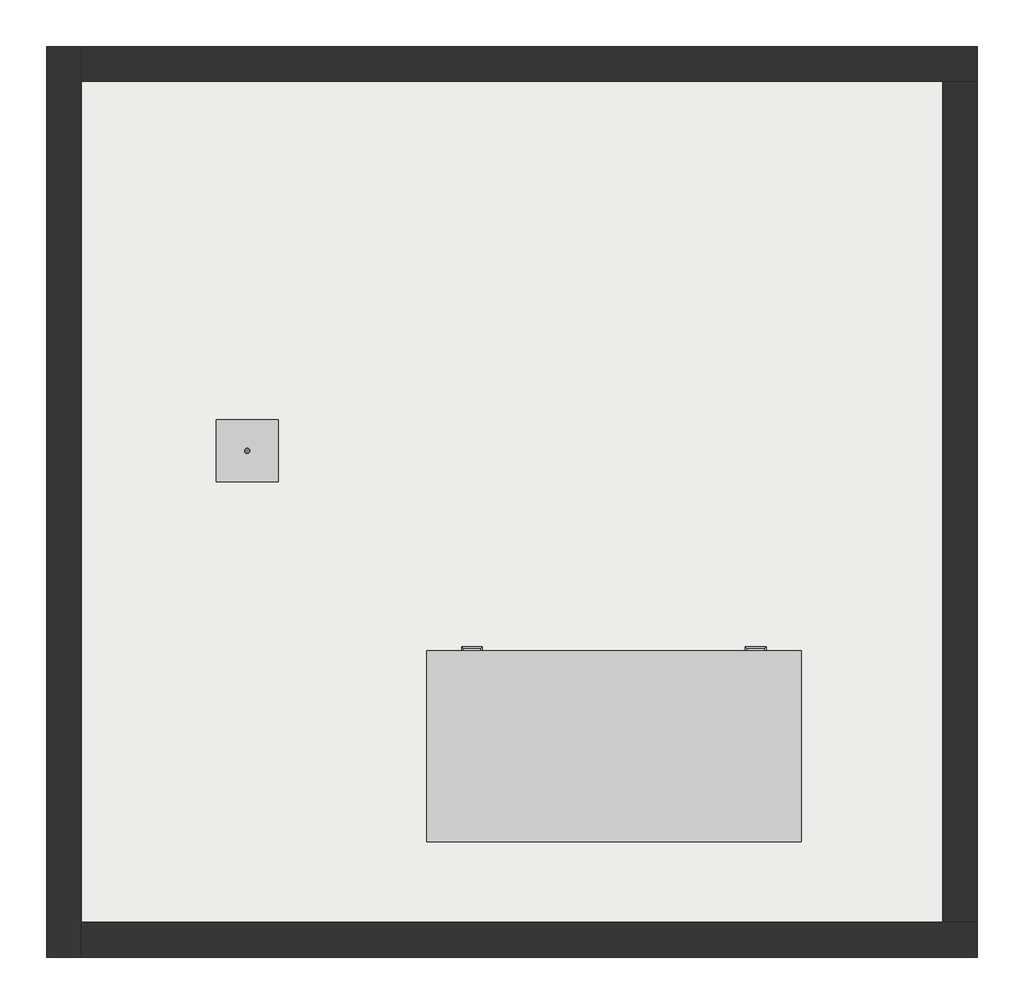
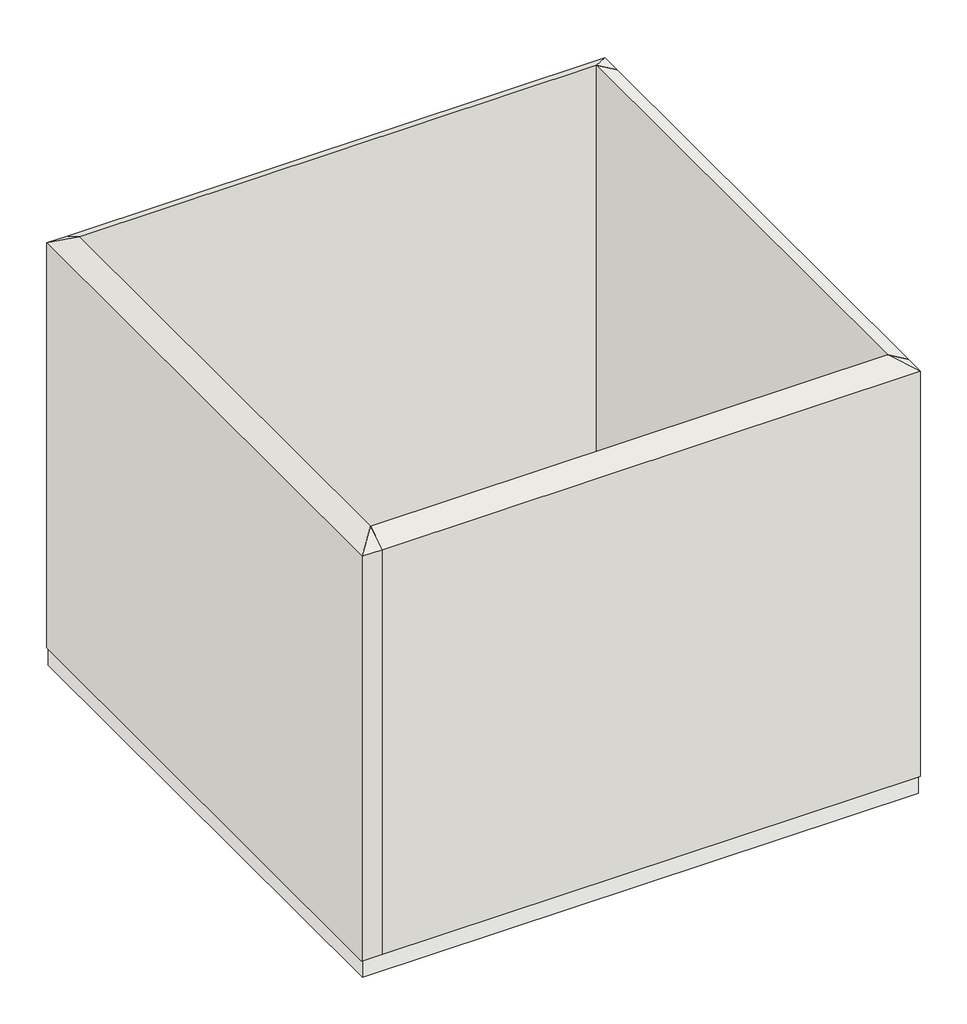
# One storey: 4 walls, 1 furniture element, 1 light fixture, 1 slab.
"""IFC4 building model written with IfcOpenShell, lengths in millimetres."""

import ifcopenshell
import ifcopenshell.guid

model = None  # the IFC model being written
_history = None  # IfcOwnerHistory: only IFC2X3 demands one
_inside = {}  # id of a spatial element -> (the spatial element, [elements in it])
_under = {}  # id of a project, library or spatial element -> (it, [spatial elements below it])
_declared = {}  # id of a project -> (the project, [libraries it declares])
_typed = {}  # id of a type object -> (the type object, [elements of that type])
_made_of = {}  # id of a material, layer set ... -> (it, [elements and type objects made of it])


def new_model(schema):
    """Start an empty IFC model of exactly this schema.

    Asked for "IFC4X3", IfcOpenShell would pick the latest addendum, in which some entities
    have other attributes; the version numbers below select the first issue.
    IFC2X3 requires an IfcOwnerHistory on every rooted entity: one is made here for all.
    """
    global model, _history
    if schema == "IFC4X3":
        model = ifcopenshell.file(schema_version=(4, 3, 0, 0))
    else:
        model = ifcopenshell.file(schema=schema)
    _inside.clear()
    _under.clear()
    _declared.clear()
    _typed.clear()
    _made_of.clear()
    _history = None
    if model.schema == "IFC2X3":
        org = make("IfcOrganization", Name="unknown")
        user = make(
            "IfcPersonAndOrganization",
            ThePerson=make("IfcPerson", FamilyName="unknown"),
            TheOrganization=org,
        )
        app = make(
            "IfcApplication",
            ApplicationDeveloper=org,
            Version="unknown",
            ApplicationFullName="unknown",
            ApplicationIdentifier="unknown",
        )
        _history = make(
            "IfcOwnerHistory",
            OwningUser=user,
            OwningApplication=app,
            ChangeAction="ADDED",
            CreationDate=0,
        )
    return model


def make(cls, **values):
    """One entity of the class cls with the attributes given. An attribute that is None is left unset."""
    return model.create_entity(
        cls, **{name: value for name, value in values.items() if value is not None}
    )


def rooted(cls, **values):
    """An entity with a GlobalId (a new one), such as an element, a storey or a relation."""
    return make(cls, GlobalId=ifcopenshell.guid.new(), OwnerHistory=_history, **values)


def si_unit(unit_type, name, prefix=None):
    """IfcSIUnit, for example si_unit("LENGTHUNIT", "METRE", prefix="MILLI")."""
    return make("IfcSIUnit", UnitType=unit_type, Prefix=prefix, Name=name)


def assignment(units):
    """IfcUnitAssignment: the units of a project."""
    return None if units is None else make("IfcUnitAssignment", Units=units)


def point(xyz):
    """IfcCartesianPoint."""
    return None if xyz is None else make("IfcCartesianPoint", Coordinates=xyz)


def direction(xyz):
    """IfcDirection."""
    return None if xyz is None else make("IfcDirection", DirectionRatios=xyz)


def frame(location, z_axis=None, x_axis=None):
    """IfcAxis2Placement3D, a coordinate frame: its origin and axes. An axis left out is left unset."""
    return make(
        "IfcAxis2Placement3D",
        Location=point(location),
        Axis=direction(z_axis),
        RefDirection=direction(x_axis),
    )


def frame_2d(location, x_axis=None):
    """IfcAxis2Placement2D, a coordinate frame in the plane: its origin and x axis."""
    return make(
        "IfcAxis2Placement2D", Location=point(location), RefDirection=direction(x_axis)
    )


def origin():
    """The frame at (0, 0, 0) with its axes left unset."""
    return frame((0.0, 0.0, 0.0))


def origin_2d():
    """The frame at (0, 0) in the plane with its x axis left unset."""
    return frame_2d((0.0, 0.0))


def place(relative_to, where):
    """IfcLocalPlacement: puts the frame where relative to a parent placement (None: the world)."""
    return make(
        "IfcLocalPlacement", PlacementRelTo=relative_to, RelativePlacement=where
    )


def context(
    kind, dimensions, precision=None, world=None, true_north=None, identifier=None
):
    """IfcGeometricRepresentationContext, for example the 3D "Model" context."""
    return make(
        "IfcGeometricRepresentationContext",
        ContextIdentifier=identifier,
        ContextType=kind,
        CoordinateSpaceDimension=dimensions,
        Precision=precision,
        WorldCoordinateSystem=world,
        TrueNorth=true_north,
    )


def project(units=None, contexts=None):
    """IfcProject with its units and contexts."""
    return rooted(
        "IfcProject",
        Name="project",
        RepresentationContexts=contexts,
        UnitsInContext=assignment(units),
    )


def spatial(cls, under=None, at=None, **own):
    """A site, building, storey or space (cls), placed at a placement, below another one or the project."""
    s = rooted(cls, ObjectPlacement=at, **own)
    if under is not None:
        _under.setdefault(under.id(), (under, []))[1].append(s)
    return s


def polyline(points):
    """IfcPolyline through the points."""
    return make("IfcPolyline", Points=[point(p) for p in points])


def circle_curve(where, radius):
    """IfcCircle in the frame where."""
    return make("IfcCircle", Position=where, Radius=radius)


def ellipse_curve(where, semi_axis1, semi_axis2):
    """IfcEllipse in the frame where."""
    return make(
        "IfcEllipse", Position=where, SemiAxis1=semi_axis1, SemiAxis2=semi_axis2
    )


def trimmed(basis, trim1, trim2, sense, master):
    """IfcTrimmedCurve: the piece of a basis curve between two trims."""
    return make(
        "IfcTrimmedCurve",
        BasisCurve=basis,
        Trim1=trim1,
        Trim2=trim2,
        SenseAgreement=sense,
        MasterRepresentation=master,
    )


def segment(curve, same_sense, transition):
    """IfcCompositeCurveSegment."""
    return make(
        "IfcCompositeCurveSegment",
        Transition=transition,
        SameSense=same_sense,
        ParentCurve=curve,
    )


def composite_curve(segments, self_intersect=None):
    """IfcCompositeCurve: segments joined end to end."""
    return make("IfcCompositeCurve", Segments=segments, SelfIntersect=self_intersect)


def outline(outer, holes=None, kind="AREA"):
    """IfcArbitraryClosedProfileDef: a profile drawn as a closed curve; with holes, ...WithVoids."""
    if holes is None:
        return make("IfcArbitraryClosedProfileDef", ProfileType=kind, OuterCurve=outer)
    return make(
        "IfcArbitraryProfileDefWithVoids",
        ProfileType=kind,
        OuterCurve=outer,
        InnerCurves=holes,
    )


def extrude(swept, where, along, depth):
    """IfcExtrudedAreaSolid: the profile swept, set in the frame where, extruded along a direction by depth."""
    return make(
        "IfcExtrudedAreaSolid",
        SweptArea=swept,
        Position=where,
        ExtrudedDirection=direction(along),
        Depth=depth,
    )


def faces_of(points, faces, orient=None, outer=None):
    """IfcFace entities. A face is a list of loops; a loop is a list of indices into points, from 0.

    orient and outer hold one flag for each loop. By default every Orientation is true, the
    first loop of a face is its IfcFaceOuterBound and the others are IfcFaceBound.
    """
    made = []
    for i, loops in enumerate(faces):
        bounds = []
        for j, loop in enumerate(loops):
            is_outer = j == 0 if outer is None else outer[i][j]
            bounds.append(
                make(
                    "IfcFaceOuterBound" if is_outer else "IfcFaceBound",
                    Bound=make("IfcPolyLoop", Polygon=[points[k] for k in loop]),
                    Orientation=True if orient is None else orient[i][j],
                )
            )
        made.append(make("IfcFace", Bounds=bounds))
    return made


def faceted_brep(points, faces, orient=None, outer=None, voids=None):
    """IfcFacetedBrep: a solid bounded by flat faces; with voids (closed shells), ...WithVoids."""
    shared = [point(p) for p in points]
    hull = make("IfcClosedShell", CfsFaces=faces_of(shared, faces, orient, outer))
    if voids is None:
        return make("IfcFacetedBrep", Outer=hull)
    return make(
        "IfcFacetedBrepWithVoids",
        Outer=hull,
        Voids=[
            make(cls, CfsFaces=faces_of(shared, fs, o, b)) for cls, fs, o, b in voids
        ],
    )


def shape(context_of_items, identifier, shape_type, items):
    """IfcShapeRepresentation: the items that make up one representation, for example the "Body"."""
    return make(
        "IfcShapeRepresentation",
        ContextOfItems=context_of_items,
        RepresentationIdentifier=identifier,
        RepresentationType=shape_type,
        Items=items,
    )


def source(mapping_origin, context_of_items, identifier, shape_type, items):
    """IfcRepresentationMap: a shape defined once, which mapped items show again and again."""
    return make(
        "IfcRepresentationMap",
        MappingOrigin=mapping_origin,
        MappedRepresentation=shape(context_of_items, identifier, shape_type, items),
    )


def transform(
    local_origin,
    x_axis=None,
    y_axis=None,
    z_axis=None,
    scale=None,
    scale2=None,
    scale3=None,
    uniform=True,
):
    """IfcCartesianTransformationOperator3D, or its non-uniform kind. x_axis, y_axis, z_axis: its Axis1, 2, 3."""
    if uniform:
        return make(
            "IfcCartesianTransformationOperator3D",
            Axis1=direction(x_axis),
            Axis2=direction(y_axis),
            LocalOrigin=point(local_origin),
            Scale=scale,
            Axis3=direction(z_axis),
        )
    return make(
        "IfcCartesianTransformationOperator3DnonUniform",
        Axis1=direction(x_axis),
        Axis2=direction(y_axis),
        LocalOrigin=point(local_origin),
        Scale=scale,
        Axis3=direction(z_axis),
        Scale2=scale2,
        Scale3=scale3,
    )


def mapped(mapping_source, mapping_target):
    """IfcMappedItem: shows the shape of a source again, moved by a transform."""
    return make(
        "IfcMappedItem", MappingSource=mapping_source, MappingTarget=mapping_target
    )


def made_of(thing, what):
    """Note that an element or type object is made of a material, layer set ...; save() writes the relation."""
    if what is not None:
        _made_of.setdefault(what.id(), (what, []))[1].append(thing)
    return thing


def element(
    cls,
    number,
    at=None,
    inside=None,
    cuts=None,
    type_object=None,
    material=None,
    context=None,
    identifier="Body",
    shape_type=None,
    held_by="IfcProductDefinitionShape",
    body=None,
    shapes=None,
    **own,
):
    """One element of the class cls, such as IfcWall. Its Tag is "e" and its number.

    at: its placement. inside: the storey or other place that contains it. cuts: it is an
    opening in that element (IfcRelVoidsElement). A single representation is given by context,
    identifier, shape_type and body (its items); several are given by shapes. held_by: the class
    of the entity that holds the representations. save() writes the other relations.
    """
    e = rooted(cls, Tag="e%d" % number, ObjectPlacement=at, **own)
    if body is not None:
        shapes = [shape(context, identifier, shape_type, body)]
    if shapes is not None:
        e.Representation = make(held_by, Representations=shapes)
    if inside is not None:
        _inside.setdefault(inside.id(), (inside, []))[1].append(e)
    if cuts is not None:
        rooted(
            "IfcRelVoidsElement", RelatingBuildingElement=cuts, RelatedOpeningElement=e
        )
    if type_object is not None:
        _typed.setdefault(type_object.id(), (type_object, []))[1].append(e)
    return made_of(e, material)


def aggregate(whole, parts):
    """IfcRelAggregates: a whole, such as a stair, and the parts it consists of."""
    return rooted("IfcRelAggregates", RelatingObject=whole, RelatedObjects=parts)


def save(model, path):
    """Write the relations noted so far, then the file.

    IfcRelAggregates (storeys below a building ...), IfcRelContainedInSpatialStructure (elements
    in a storey), IfcRelDefinesByType, IfcRelAssociatesMaterial and IfcRelDeclares: one each for
    every whole, place, type object, material and project.
    """
    for whole, parts in _under.values():
        aggregate(whole, parts)
    for where, things in _inside.values():
        rooted(
            "IfcRelContainedInSpatialStructure",
            RelatedElements=things,
            RelatingStructure=where,
        )
    for kind, things in _typed.values():
        rooted("IfcRelDefinesByType", RelatedObjects=things, RelatingType=kind)
    for what, things in _made_of.values():
        rooted("IfcRelAssociatesMaterial", RelatedObjects=things, RelatingMaterial=what)
    for by, libraries in _declared.values():
        rooted("IfcRelDeclares", RelatingContext=by, RelatedDefinitions=libraries)
    model.write(path)


def plane_surface(at):
    """IfcPlane: the flat surface through the origin of the frame at, square to its z axis."""
    return make("IfcPlane", Position=at)


def revolved_surface(curve, axis_point, axis_direction):
    """IfcSurfaceOfRevolution: the curve turned about the line through axis_point along axis_direction."""
    return make(
        "IfcSurfaceOfRevolution",
        SweptCurve=make("IfcArbitraryOpenProfileDef", ProfileType="CURVE", Curve=curve),
        AxisPosition=make("IfcAxis1Placement", Location=point(axis_point), Axis=direction(axis_direction)),
    )


def advanced_brep(points, edges, surfaces, faces):
    """IfcAdvancedBrep: a solid bounded by faces that lie on surfaces and meet in shared edges.

    An edge is (start, end): straight between two places in points (the first is 0);
    or (start, end, curve); or (start, end, curve, False) where it runs against its curve.
    A face is (place in surfaces, loops), or (place, loops, False) where it looks against
    its surface's normal. A loop lists edges by number (the first is 1), with a minus sign
    where the edge is run from its end to its start. The first loop is the outer one.
    """
    corners = [point(p) for p in points]
    vertices = [make("IfcVertexPoint", VertexGeometry=c) for c in corners]
    made = []
    for start, end, *more in edges:
        made.append(
            make(
                "IfcEdgeCurve",
                EdgeStart=vertices[start],
                EdgeEnd=vertices[end],
                EdgeGeometry=more[0] if more else make("IfcPolyline", Points=[corners[start], corners[end]]),
                SameSense=more[1] if len(more) > 1 else True,
            )
        )
    hull = []
    for where, loops, *sense in faces:
        bounds = []
        for j, loop in enumerate(loops):
            ring = [make("IfcOrientedEdge", EdgeElement=made[abs(k) - 1], Orientation=k > 0) for k in loop]
            bounds.append(
                make(
                    "IfcFaceOuterBound" if j == 0 else "IfcFaceBound",
                    Bound=make("IfcEdgeLoop", EdgeList=ring),
                    Orientation=True,
                )
            )
        hull.append(make("IfcAdvancedFace", Bounds=bounds, FaceSurface=surfaces[where], SameSense=sense[0] if sense else True))
    return make("IfcAdvancedBrep", Outer=make("IfcClosedShell", CfsFaces=hull))


def furniture_1800_x_900_mm_2e0cac71(model_context):
    return source(origin(), model_context, "Body", "SolidModel", [
        extrude(outline(polyline([(1780.95, 900.0), (1412.65, 900.0), (1412.65, 912.7), (1780.95, 912.7), (1780.95, 900.0)])), frame((0.0, 0.0, 603.25), z_axis=(0.0, 0.0, 1.0), x_axis=(1.0, 0.0, 0.0)), (0.0, 0.0, 1.0), 101.6),
        extrude(outline(polyline([(1780.95, 900.0), (1412.65, 900.0), (1412.65, 912.7), (1780.95, 912.7), (1780.95, 900.0)])), frame((0.0, 0.0, 139.05), z_axis=(0.0, 0.0, 1.0), x_axis=(1.0, 0.0, 0.0)), (0.0, 0.0, 1.0), 445.15),
        extrude(outline(polyline([(387.35, 900.0), (19.05, 900.0), (19.05, 912.7), (387.35, 912.7), (387.35, 900.0)])), frame((0.0, 0.0, 570.85), z_axis=(0.0, 0.0, 1.0), x_axis=(1.0, 0.0, 0.0)), (0.0, 0.0, 1.0), 134.0),
        extrude(outline(polyline([(387.35, 900.0), (19.05, 900.0), (19.05, 912.7), (387.35, 912.7), (387.35, 900.0)])), frame((0.0, 0.0, 139.05), z_axis=(0.0, 0.0, 1.0), x_axis=(1.0, 0.0, 0.0)), (0.0, 0.0, 1.0), 171.45),
        extrude(outline(polyline([(387.35, 900.0), (19.05, 900.0), (19.05, 912.7), (387.35, 912.7), (387.35, 900.0)])), frame((0.0, 0.0, 450.2), z_axis=(0.0, 0.0, 1.0), x_axis=(1.0, 0.0, 0.0)), (0.0, 0.0, 1.0), 101.6),
        extrude(outline(polyline([(387.35, 900.0), (19.05, 900.0), (19.05, 912.7), (387.35, 912.7), (387.35, 900.0)])), frame((0.0, 0.0, 329.55), z_axis=(0.0, 0.0, 1.0), x_axis=(1.0, 0.0, 0.0)), (0.0, 0.0, 1.0), 101.6),
        faceted_brep([(1698.4, 900.0, 120.0), (1698.4, 798.4, 120.0), (1800.0, 798.4, 120.0), (1800.0, 900.0, 120.0), (1723.8, 900.0, 0.0), (1800.0, 900.0, 0.0), (1800.0, 823.8, 0.0), (1723.8, 823.8, 0.0)], [[[0, 1, 2, 3]], [[4, 5, 6, 7]], [[4, 7, 1, 0]], [[7, 6, 2, 1]], [[6, 5, 3, 2]], [[5, 4, 0, 3]]]),
        faceted_brep([(1698.4, 0.0, 120.0), (1800.0, 0.0, 120.0), (1800.0, 101.6, 120.0), (1698.4, 101.6, 120.0), (1723.8, 0.0, 0.0), (1723.8, 76.2, 0.0), (1800.0, 76.2, 0.0), (1800.0, 0.0, 0.0)], [[[0, 1, 2, 3]], [[4, 5, 6, 7]], [[4, 7, 1, 0]], [[7, 6, 2, 1]], [[6, 5, 3, 2]], [[5, 4, 0, 3]]]),
        faceted_brep([(101.6, 0.0, 120.0), (101.6, 101.6, 120.0), (0.0, 101.6, 120.0), (0.0, 0.0, 120.0), (76.2, 0.0, 0.0), (0.0, 0.0, 0.0), (0.0, 76.2, 0.0), (76.2, 76.2, 0.0)], [[[0, 1, 2, 3]], [[4, 5, 6, 7]], [[4, 7, 1, 0]], [[7, 6, 2, 1]], [[6, 5, 3, 2]], [[5, 4, 0, 3]]]),
        faceted_brep([(101.6, 900.0, 120.0), (0.0, 900.0, 120.0), (0.0, 798.4, 120.0), (101.6, 798.4, 120.0), (76.2, 900.0, 0.0), (76.2, 823.8, 0.0), (0.0, 823.8, 0.0), (0.0, 900.0, 0.0)], [[[0, 1, 2, 3]], [[4, 5, 6, 7]], [[4, 7, 1, 0]], [[7, 6, 2, 1]], [[6, 5, 3, 2]], [[5, 4, 0, 3]]]),
        extrude(outline(polyline([(1819.05, 919.05), (1819.05, -19.05), (-19.05, -19.05), (-19.05, 919.05), (1819.05, 919.05)])), frame((0.0, 0.0, 723.9), z_axis=(0.0, 0.0, 1.0), x_axis=(1.0, 0.0, 0.0)), (0.0, 0.0, 1.0), 38.1),
        extrude(outline(polyline([(406.4, 900.0), (406.4, 50.8), (1393.6, 50.8), (1393.6, 900.0), (1800.0, 900.0), (1800.0, 0.0), (0.0, 0.0), (0.0, 900.0), (406.4, 900.0)])), frame((0.0, 0.0, 120.0), z_axis=(0.0, 0.0, 1.0), x_axis=(1.0, 0.0, 0.0)), (0.0, 0.0, 1.0), 603.9),
        faceted_brep([(1641.25, 912.7, 546.1), (1641.25, 912.7, 533.4), (1647.6, 912.7, 533.4), (1647.6, 912.7, 546.1), (1641.25, 931.75, 546.1), (1641.25, 931.75, 533.4), (1647.6, 938.1, 533.4), (1647.6, 938.1, 546.1), (1552.35, 931.75, 546.1), (1552.35, 931.75, 533.4), (1546.0, 938.1, 533.4), (1546.0, 938.1, 546.1), (1552.35, 912.7, 546.1), (1546.0, 912.7, 546.1), (1546.0, 912.7, 533.4), (1552.35, 912.7, 533.4)], [[[0, 1, 2, 3]], [[1, 0, 4, 5]], [[2, 1, 5, 6]], [[3, 2, 6, 7]], [[0, 3, 7, 4]], [[5, 4, 8, 9]], [[6, 5, 9, 10]], [[7, 6, 10, 11]], [[4, 7, 11, 8]], [[12, 13, 14, 15]], [[9, 8, 12, 15]], [[10, 9, 15, 14]], [[11, 10, 14, 13]], [[8, 11, 13, 12]]]),
        faceted_brep([(1641.25, 912.7, 666.75), (1641.25, 912.7, 654.05), (1647.6, 912.7, 654.05), (1647.6, 912.7, 666.75), (1641.25, 931.75, 666.75), (1641.25, 931.75, 654.05), (1647.6, 938.1, 654.05), (1647.6, 938.1, 666.75), (1552.35, 931.75, 666.75), (1552.35, 931.75, 654.05), (1546.0, 938.1, 654.05), (1546.0, 938.1, 666.75), (1552.35, 912.7, 666.75), (1546.0, 912.7, 666.75), (1546.0, 912.7, 654.05), (1552.35, 912.7, 654.05)], [[[0, 1, 2, 3]], [[1, 0, 4, 5]], [[2, 1, 5, 6]], [[3, 2, 6, 7]], [[0, 3, 7, 4]], [[5, 4, 8, 9]], [[6, 5, 9, 10]], [[7, 6, 10, 11]], [[4, 7, 11, 8]], [[12, 13, 14, 15]], [[9, 8, 12, 15]], [[10, 9, 15, 14]], [[11, 10, 14, 13]], [[8, 11, 13, 12]]]),
        faceted_brep([(158.75, 912.7, 304.8), (152.4, 912.7, 304.8), (152.4, 912.7, 292.1), (158.75, 912.7, 292.1), (158.75, 931.75, 304.8), (152.4, 938.1, 304.8), (152.4, 938.1, 292.1), (158.75, 931.75, 292.1), (247.65, 931.75, 304.8), (254.0, 938.1, 304.8), (254.0, 938.1, 292.1), (247.65, 931.75, 292.1), (247.65, 912.7, 304.8), (247.65, 912.7, 292.1), (254.0, 912.7, 292.1), (254.0, 912.7, 304.8)], [[[0, 1, 2, 3]], [[1, 0, 4, 5]], [[2, 1, 5, 6]], [[3, 2, 6, 7]], [[0, 3, 7, 4]], [[5, 4, 8, 9]], [[6, 5, 9, 10]], [[7, 6, 10, 11]], [[4, 7, 11, 8]], [[12, 13, 14, 15]], [[9, 8, 12, 15]], [[10, 9, 15, 14]], [[11, 10, 14, 13]], [[8, 11, 13, 12]]]),
        faceted_brep([(158.75, 912.7, 425.45), (152.4, 912.7, 425.45), (152.4, 912.7, 412.75), (158.75, 912.7, 412.75), (158.75, 931.75, 425.45), (152.4, 938.1, 425.45), (152.4, 938.1, 412.75), (158.75, 931.75, 412.75), (247.65, 931.75, 425.45), (254.0, 938.1, 425.45), (254.0, 938.1, 412.75), (247.65, 931.75, 412.75), (247.65, 912.7, 425.45), (247.65, 912.7, 412.75), (254.0, 912.7, 412.75), (254.0, 912.7, 425.45)], [[[0, 1, 2, 3]], [[1, 0, 4, 5]], [[2, 1, 5, 6]], [[3, 2, 6, 7]], [[0, 3, 7, 4]], [[5, 4, 8, 9]], [[6, 5, 9, 10]], [[7, 6, 10, 11]], [[4, 7, 11, 8]], [[12, 13, 14, 15]], [[9, 8, 12, 15]], [[10, 9, 15, 14]], [[11, 10, 14, 13]], [[8, 11, 13, 12]]]),
        faceted_brep([(158.75, 912.7, 546.1), (152.4, 912.7, 546.1), (152.4, 912.7, 533.4), (158.75, 912.7, 533.4), (158.75, 931.75, 546.1), (152.4, 938.1, 546.1), (152.4, 938.1, 533.4), (158.75, 931.75, 533.4), (247.65, 931.75, 546.1), (254.0, 938.1, 546.1), (254.0, 938.1, 533.4), (247.65, 931.75, 533.4), (247.65, 912.7, 546.1), (247.65, 912.7, 533.4), (254.0, 912.7, 533.4), (254.0, 912.7, 546.1)], [[[0, 1, 2, 3]], [[1, 0, 4, 5]], [[2, 1, 5, 6]], [[3, 2, 6, 7]], [[0, 3, 7, 4]], [[5, 4, 8, 9]], [[6, 5, 9, 10]], [[7, 6, 10, 11]], [[4, 7, 11, 8]], [[12, 13, 14, 15]], [[9, 8, 12, 15]], [[10, 9, 15, 14]], [[11, 10, 14, 13]], [[8, 11, 13, 12]]]),
        faceted_brep([(158.75, 912.7, 666.75), (152.4, 912.7, 666.75), (152.4, 912.7, 654.05), (158.75, 912.7, 654.05), (158.75, 931.75, 666.75), (152.4, 938.1, 666.75), (152.4, 938.1, 654.05), (158.75, 931.75, 654.05), (247.65, 931.75, 666.75), (254.0, 938.1, 666.75), (254.0, 938.1, 654.05), (247.65, 931.75, 654.05), (247.65, 912.7, 666.75), (247.65, 912.7, 654.05), (254.0, 912.7, 654.05), (254.0, 912.7, 666.75)], [[[0, 1, 2, 3]], [[1, 0, 4, 5]], [[2, 1, 5, 6]], [[3, 2, 6, 7]], [[0, 3, 7, 4]], [[5, 4, 8, 9]], [[6, 5, 9, 10]], [[7, 6, 10, 11]], [[4, 7, 11, 8]], [[12, 13, 14, 15]], [[9, 8, 12, 15]], [[10, 9, 15, 14]], [[11, 10, 14, 13]], [[8, 11, 13, 12]]]),
    ])


def light_fixture_8564026f(model_context):
    return source(origin(), model_context, "Body", "SolidModel", [
        extrude(outline(composite_curve([segment(trimmed(circle_curve(origin_2d(), 12.7), [point((-12.7, 0.0))], [point((12.7, 0.0))], False, "CARTESIAN"), True, "CONTINUOUS"), segment(trimmed(circle_curve(origin_2d(), 12.7), [point((12.7, 0.0))], [point((-12.7, 0.0))], False, "CARTESIAN"), True, "CONTINUOUS")], self_intersect=False)), frame((0.0, 0.0, 24.9639672), z_axis=(0.0, 0.0, 1.0), x_axis=(1.0, 0.0, 0.0)), (0.0, 0.0, 1.0), 1499.0360328),
        extrude(outline(polyline([(152.4, 152.4), (152.4, -152.4), (-152.4, -152.4), (-152.4, 152.4), (152.4, 152.4)])), frame((0.0, 0.0, 12.6871384), z_axis=(0.0, 0.0, 1.0), x_axis=(1.0, 0.0, 0.0)), (0.0, 0.0, 1.0), 12.2768288),
        advanced_brep(
        [(133.9366871, -135.595774, 0.0), (140.1544999, -135.595774, 0.0), (140.1544999, -135.595774, 12.6871384), (133.9366871, -135.595774, 12.6871384), (121.2495488, -135.595774, 12.6871384), (152.8416383, -135.595774, 12.6871384)],
        [
            (0, 1, circle_curve(frame((137.0455935, -135.595774, 0.0), z_axis=(0.0, 0.0, -1.0), x_axis=(0.0, 1.0, 0.0)), 3.1089064)),
            (1, 2),
            (2, 3, circle_curve(frame((137.0455935, -135.595774, 12.6871384), z_axis=(0.0, 0.0, 1.0), x_axis=(0.0, 1.0, 0.0)), 3.1089064)),
            (3, 0),
            (1, 0, circle_curve(frame((137.0455935, -135.595774, 0.0), z_axis=(0.0, 0.0, -1.0), x_axis=(0.0, 1.0, 0.0)), 3.1089064)),
            (3, 2, circle_curve(frame((137.0455935, -135.595774, 12.6871384), z_axis=(0.0, 0.0, 1.0), x_axis=(0.0, 1.0, 0.0)), 3.1089064)),
            (4, 5, circle_curve(frame((137.0455935, -135.595774, 12.6871384), z_axis=(0.0, 0.0, -1.0), x_axis=(0.0, 1.0, 0.0)), 15.7960447)),
            (5, 1, circle_curve(frame((140.1544999, -135.595774, 12.6871384), z_axis=(0.0, 1.0, 0.0), x_axis=(1.0, 0.0, 0.0)), 12.6871384)),
            (0, 4, circle_curve(frame((133.9366871, -135.595774, 12.6871384), z_axis=(0.0, 1.0, 0.0), x_axis=(-1.0, 0.0, 0.0)), 12.6871384)),
            (5, 4, circle_curve(frame((137.0455935, -135.595774, 12.6871384), z_axis=(0.0, 0.0, -1.0), x_axis=(0.0, 1.0, 0.0)), 15.7960447)),
            (2, 5),
            (4, 3),
        ],
        [
            revolved_surface(polyline([(137.0455935, -132.4868676, 12.6871384), (137.0455935, -132.4868676, 0.0)]), (137.0455935, -135.595774, 0.0), (0.0, 0.0, 1.0)),
            revolved_surface(trimmed(ellipse_curve(frame((137.0455935, -132.4868676, 12.6871384), z_axis=(1.0, 0.0, 0.0), x_axis=(0.0, 1.0, 0.0)), 12.6871384, 12.6871384), [point((137.0455935, -132.4868676, 0.0))], [point((137.0455935, -119.7997292, 12.6871384))], True, "CARTESIAN"), (137.0455935, -135.595774, 0.0), (0.0, 0.0, 1.0)),
            plane_surface(frame((137.0455935, -135.595774, 12.6871384), z_axis=(0.0, 0.0, 1.0), x_axis=(0.0, 1.0, 0.0))),
        ],
        [
            (0, [[1, 2, 3, 4]]),
            (0, [[5, -4, 6, -2]]),
            (1, [[7, 8, -1, 9]]),
            (1, [[10, -9, -5, -8]]),
            (2, [[-3, 11, -7, 12]]),
            (2, [[-6, -12, -10, -11]]),
        ],
    ),
        advanced_brep(
        [(-138.5460372, -136.1907144, 0.0), (-132.3282244, -136.1907144, 0.0), (-132.3282244, -136.1907144, 12.6871384), (-138.5460372, -136.1907144, 12.6871384), (-151.2331755, -136.1907144, 12.6871384), (-119.641086, -136.1907144, 12.6871384)],
        [
            (0, 1, circle_curve(frame((-135.4371308, -136.1907144, 0.0), z_axis=(0.0, 0.0, -1.0), x_axis=(0.0, 1.0, 0.0)), 3.1089064)),
            (1, 2),
            (2, 3, circle_curve(frame((-135.4371308, -136.1907144, 12.6871384), z_axis=(0.0, 0.0, 1.0), x_axis=(0.0, 1.0, 0.0)), 3.1089064)),
            (3, 0),
            (1, 0, circle_curve(frame((-135.4371308, -136.1907144, 0.0), z_axis=(0.0, 0.0, -1.0), x_axis=(0.0, 1.0, 0.0)), 3.1089064)),
            (3, 2, circle_curve(frame((-135.4371308, -136.1907144, 12.6871384), z_axis=(0.0, 0.0, 1.0), x_axis=(0.0, 1.0, 0.0)), 3.1089064)),
            (4, 5, circle_curve(frame((-135.4371308, -136.1907144, 12.6871384), z_axis=(0.0, 0.0, -1.0), x_axis=(0.0, 1.0, 0.0)), 15.7960447)),
            (5, 1, circle_curve(frame((-132.3282244, -136.1907144, 12.6871384), z_axis=(0.0, 1.0, 0.0), x_axis=(1.0, 0.0, 0.0)), 12.6871384)),
            (0, 4, circle_curve(frame((-138.5460372, -136.1907144, 12.6871384), z_axis=(0.0, 1.0, 0.0), x_axis=(-1.0, 0.0, 0.0)), 12.6871384)),
            (5, 4, circle_curve(frame((-135.4371308, -136.1907144, 12.6871384), z_axis=(0.0, 0.0, -1.0), x_axis=(0.0, 1.0, 0.0)), 15.7960447)),
            (2, 5),
            (4, 3),
        ],
        [
            revolved_surface(polyline([(-135.4371308, -133.081808, 12.6871384), (-135.4371308, -133.081808, 0.0)]), (-135.4371308, -136.1907144, 0.0), (0.0, 0.0, 1.0)),
            revolved_surface(trimmed(ellipse_curve(frame((-135.4371308, -133.081808, 12.6871384), z_axis=(1.0, 0.0, 0.0), x_axis=(0.0, 1.0, 0.0)), 12.6871384, 12.6871384), [point((-135.4371308, -133.081808, 0.0))], [point((-135.4371308, -120.3946697, 12.6871384))], True, "CARTESIAN"), (-135.4371308, -136.1907144, 0.0), (0.0, 0.0, 1.0)),
            plane_surface(frame((-135.4371308, -136.1907144, 12.6871384), z_axis=(0.0, 0.0, 1.0), x_axis=(0.0, 1.0, 0.0))),
        ],
        [
            (0, [[1, 2, 3, 4]]),
            (0, [[5, -4, 6, -2]]),
            (1, [[7, 8, -1, 9]]),
            (1, [[10, -9, -5, -8]]),
            (2, [[-3, 11, -7, 12]]),
            (2, [[-6, -12, -10, -11]]),
        ],
    ),
        advanced_brep(
        [(-139.1409776, 135.6970694, 0.0), (-132.9231648, 135.6970694, 0.0), (-132.9231648, 135.6970694, 12.6871384), (-139.1409776, 135.6970694, 12.6871384), (-151.828116, 135.6970694, 12.6871384), (-120.2360265, 135.6970694, 12.6871384)],
        [
            (0, 1, circle_curve(frame((-136.0320712, 135.6970694, 0.0), z_axis=(0.0, 0.0, -1.0), x_axis=(0.0, 1.0, 0.0)), 3.1089064)),
            (1, 2),
            (2, 3, circle_curve(frame((-136.0320712, 135.6970694, 12.6871384), z_axis=(0.0, 0.0, 1.0), x_axis=(0.0, 1.0, 0.0)), 3.1089064)),
            (3, 0),
            (1, 0, circle_curve(frame((-136.0320712, 135.6970694, 0.0), z_axis=(0.0, 0.0, -1.0), x_axis=(0.0, 1.0, 0.0)), 3.1089064)),
            (3, 2, circle_curve(frame((-136.0320712, 135.6970694, 12.6871384), z_axis=(0.0, 0.0, 1.0), x_axis=(0.0, 1.0, 0.0)), 3.1089064)),
            (4, 5, circle_curve(frame((-136.0320712, 135.6970694, 12.6871384), z_axis=(0.0, 0.0, -1.0), x_axis=(0.0, 1.0, 0.0)), 15.7960447)),
            (5, 1, circle_curve(frame((-132.9231648, 135.6970694, 12.6871384), z_axis=(0.0, 1.0, 0.0), x_axis=(1.0, 0.0, 0.0)), 12.6871384)),
            (0, 4, circle_curve(frame((-139.1409776, 135.6970694, 12.6871384), z_axis=(0.0, 1.0, 0.0), x_axis=(-1.0, 0.0, 0.0)), 12.6871384)),
            (5, 4, circle_curve(frame((-136.0320712, 135.6970694, 12.6871384), z_axis=(0.0, 0.0, -1.0), x_axis=(0.0, 1.0, 0.0)), 15.7960447)),
            (2, 5),
            (4, 3),
        ],
        [
            revolved_surface(polyline([(-136.0320712, 138.8059758, 12.6871384), (-136.0320712, 138.8059758, 0.0)]), (-136.0320712, 135.6970694, 0.0), (0.0, 0.0, 1.0)),
            revolved_surface(trimmed(ellipse_curve(frame((-136.0320712, 138.8059758, 12.6871384), z_axis=(1.0, 0.0, 0.0), x_axis=(0.0, 1.0, 0.0)), 12.6871384, 12.6871384), [point((-136.0320712, 138.8059758, 0.0))], [point((-136.0320712, 151.4931142, 12.6871384))], True, "CARTESIAN"), (-136.0320712, 135.6970694, 0.0), (0.0, 0.0, 1.0)),
            plane_surface(frame((-136.0320712, 135.6970694, 12.6871384), z_axis=(0.0, 0.0, 1.0), x_axis=(0.0, 1.0, 0.0))),
        ],
        [
            (0, [[1, 2, 3, 4]]),
            (0, [[5, -4, 6, -2]]),
            (1, [[7, 8, -1, 9]]),
            (1, [[10, -9, -5, -8]]),
            (2, [[-3, 11, -7, 12]]),
            (2, [[-6, -12, -10, -11]]),
        ],
    ),
        advanced_brep(
        [(133.2106985, 136.0573029, 0.0), (139.4285113, 136.0573029, 0.0), (139.4285113, 136.0573029, 12.6871384), (133.2106985, 136.0573029, 12.6871384), (120.5235602, 136.0573029, 12.6871384), (152.1156497, 136.0573029, 12.6871384)],
        [
            (0, 1, circle_curve(frame((136.3196049, 136.0573029, 0.0), z_axis=(0.0, 0.0, -1.0), x_axis=(0.0, 1.0, 0.0)), 3.1089064)),
            (1, 2),
            (2, 3, circle_curve(frame((136.3196049, 136.0573029, 12.6871384), z_axis=(0.0, 0.0, 1.0), x_axis=(0.0, 1.0, 0.0)), 3.1089064)),
            (3, 0),
            (1, 0, circle_curve(frame((136.3196049, 136.0573029, 0.0), z_axis=(0.0, 0.0, -1.0), x_axis=(0.0, 1.0, 0.0)), 3.1089064)),
            (3, 2, circle_curve(frame((136.3196049, 136.0573029, 12.6871384), z_axis=(0.0, 0.0, 1.0), x_axis=(0.0, 1.0, 0.0)), 3.1089064)),
            (4, 5, circle_curve(frame((136.3196049, 136.0573029, 12.6871384), z_axis=(0.0, 0.0, -1.0), x_axis=(0.0, 1.0, 0.0)), 15.7960447)),
            (5, 1, circle_curve(frame((139.4285113, 136.0573029, 12.6871384), z_axis=(0.0, 1.0, 0.0), x_axis=(1.0, 0.0, 0.0)), 12.6871384)),
            (0, 4, circle_curve(frame((133.2106985, 136.0573029, 12.6871384), z_axis=(0.0, 1.0, 0.0), x_axis=(-1.0, 0.0, 0.0)), 12.6871384)),
            (5, 4, circle_curve(frame((136.3196049, 136.0573029, 12.6871384), z_axis=(0.0, 0.0, -1.0), x_axis=(0.0, 1.0, 0.0)), 15.7960447)),
            (2, 5),
            (4, 3),
        ],
        [
            revolved_surface(polyline([(136.3196049, 139.1662093, 12.6871384), (136.3196049, 139.1662093, 0.0)]), (136.3196049, 136.0573029, 0.0), (0.0, 0.0, 1.0)),
            revolved_surface(trimmed(ellipse_curve(frame((136.3196049, 139.1662093, 12.6871384), z_axis=(1.0, 0.0, 0.0), x_axis=(0.0, 1.0, 0.0)), 12.6871384, 12.6871384), [point((136.3196049, 139.1662093, 0.0))], [point((136.3196049, 151.8533477, 12.6871384))], True, "CARTESIAN"), (136.3196049, 136.0573029, 0.0), (0.0, 0.0, 1.0)),
            plane_surface(frame((136.3196049, 136.0573029, 12.6871384), z_axis=(0.0, 0.0, 1.0), x_axis=(0.0, 1.0, 0.0))),
        ],
        [
            (0, [[1, 2, 3, 4]]),
            (0, [[5, -4, 6, -2]]),
            (1, [[7, 8, -1, 9]]),
            (1, [[10, -9, -5, -8]]),
            (2, [[-3, 11, -7, 12]]),
            (2, [[-6, -12, -10, -11]]),
        ],
    ),
        advanced_brep(
        [(0.0, -233.3382251, 1403.5752564), (0.0, 233.3382251, 1403.5752564), (0.0, 104.0586089, 1674.1859784), (0.0, -104.0586089, 1674.1859784), (0.0, -237.8523754, 1403.5752564), (0.0, 237.8523754, 1403.5752564), (0.0, -108.5727592, 1674.1859784), (0.0, 108.5727592, 1674.1859784)],
        [
            (0, 1, circle_curve(frame((0.0, 0.0, 1403.5752564), z_axis=(0.0, 0.0, -1.0), x_axis=(0.0, 1.0, 0.0)), 233.3382251)),
            (1, 2),
            (2, 3, circle_curve(frame((0.0, 0.0, 1674.1859784), z_axis=(0.0, 0.0, 1.0), x_axis=(0.0, 1.0, 0.0)), 104.0586089)),
            (3, 0),
            (1, 0, circle_curve(frame((0.0, 0.0, 1403.5752564), z_axis=(0.0, 0.0, -1.0), x_axis=(0.0, 1.0, 0.0)), 233.3382251)),
            (3, 2, circle_curve(frame((0.0, 0.0, 1674.1859784), z_axis=(0.0, 0.0, 1.0), x_axis=(0.0, 1.0, 0.0)), 104.0586089)),
            (4, 5, circle_curve(frame((0.0, 0.0, 1403.5752564), z_axis=(0.0, 0.0, -1.0), x_axis=(0.0, 1.0, 0.0)), 237.8523754)),
            (5, 1),
            (0, 4),
            (5, 4, circle_curve(frame((0.0, 0.0, 1403.5752564), z_axis=(0.0, 0.0, -1.0), x_axis=(0.0, 1.0, 0.0)), 237.8523754)),
            (6, 7, circle_curve(frame((0.0, 0.0, 1674.1859784), z_axis=(0.0, 0.0, -1.0), x_axis=(0.0, 1.0, 0.0)), 108.5727592)),
            (7, 5),
            (4, 6),
            (7, 6, circle_curve(frame((0.0, 0.0, 1674.1859784), z_axis=(0.0, 0.0, -1.0), x_axis=(0.0, 1.0, 0.0)), 108.5727592)),
            (2, 7),
            (6, 3),
        ],
        [
            revolved_surface(polyline([(0.0, 104.0586089, 1674.1859784), (0.0, 233.3382251, 1403.5752564)]), (0.0, 0.0, 1713.8233367), (0.0, 0.0, 1.0)),
            plane_surface(frame((0.0, 0.0, 1403.5752564), z_axis=(0.0, 0.0, -1.0), x_axis=(0.0, 1.0, 0.0))),
            revolved_surface(polyline([(0.0, 237.8523754, 1403.5752564), (0.0, 108.5727592, 1674.1859784)]), (0.0, 0.0, 1713.8233367), (0.0, 0.0, 1.0)),
            plane_surface(frame((0.0, 0.0, 1674.1859784), z_axis=(0.0, 0.0, 1.0), x_axis=(0.0, 1.0, 0.0))),
        ],
        [
            (0, [[1, 2, 3, 4]]),
            (0, [[5, -4, 6, -2]]),
            (1, [[7, 8, -1, 9]]),
            (1, [[10, -9, -5, -8]]),
            (2, [[11, 12, -7, 13]]),
            (2, [[14, -13, -10, -12]]),
            (3, [[-3, 15, -11, 16]]),
            (3, [[-6, -16, -14, -15]]),
        ],
    ),
    ])


model = new_model("IFC4")

# Units and contexts
model_context = context("Model", 3, world=origin())
ifc_project = project(units=[si_unit("LENGTHUNIT", "METRE", prefix="MILLI")], contexts=[model_context])

# Site, building, storey
site = spatial("IfcSite", under=ifc_project)
building = spatial("IfcBuilding", under=site)
storey = spatial("IfcBuildingStorey", under=building, Name="樓層 1", Elevation=0.0)

# Furniture
placement = place(None, origin())
furniture_1800_x_900_mm_shape = furniture_1800_x_900_mm_2e0cac71(model_context)
element("IfcFurniture", 1, ObjectType="辦公桌 (1) : 1800 x 900 mm", at=placement, inside=storey, context=model_context, shape_type="MappedRepresentation", body=[
    mapped(furniture_1800_x_900_mm_shape, transform((-1851.9146257, 1730.3452921, 0.0), x_axis=(1.0, 0.0, 0.0), y_axis=(0.0, 1.0, 0.0), z_axis=(0.0, 0.0, 1.0))),
])

# Light fixture
light_fixture_shape = light_fixture_8564026f(model_context)
element("IfcLightFixture", 2, ObjectType="立燈 (1)-圓錐型 : 150 瓦白熾燈", at=placement, inside=storey, context=model_context, shape_type="MappedRepresentation", body=[
    mapped(light_fixture_shape, transform((-2751.9146257, 3630.3452921, 0.0), x_axis=(1.0, 0.0, 0.0), y_axis=(0.0, 1.0, 0.0), z_axis=(0.0, 0.0, 1.0))),
])

# Slab
element("IfcSlab", 3, ObjectType="一般 - 15cm", at=placement, inside=storey, context=model_context, shape_type="SweptSolid", body=[
    extrude(outline(polyline([(-3726.9146257, 1155.3452921), (-3726.9146257, 5605.3452921), (823.0853743, 5605.3452921), (823.0853743, 1155.3452921), (-3726.9146257, 1155.3452921)])), frame((0.0, 0.0, -150.0), z_axis=(0.0, 0.0, 1.0), x_axis=(1.0, 0.0, 0.0)), (0.0, 0.0, 1.0), 150.0),
])

# Walls
element("IfcWall", 4, ObjectType="RC 牆 15cm", at=placement, inside=storey, context=model_context, shape_type="Brep", body=[
    faceted_brep([(-3736.9146257, 5615.3452921, 0.0), (-3736.9146257, 5605.3452921, 0.0), (-3736.9146257, 1155.3452921, 0.0), (-3736.9146257, 1145.3452921, 0.0), (-3736.9146257, 1145.3452921, 3500.0), (-3736.9146257, 5615.3452921, 3500.0), (-3566.9146257, 5615.3452921, 0.0), (-3566.9146257, 5615.3452921, 3500.0), (-3566.9146257, 5445.3452921, 3598.1495458), (-3566.9146257, 1315.3452921, 3598.1495458), (-3566.9146257, 1145.3452921, 3500.0), (-3566.9146257, 1145.3452921, 0.0), (-3566.9146257, 1155.3452921, 0.0), (-3566.9146257, 1315.3452921, 0.0), (-3566.9146257, 5445.3452921, 0.0), (-3566.9146257, 5605.3452921, 0.0), (-3726.9146257, 1145.3452921, 0.0), (-3726.9146257, 5615.3452921, 0.0), (-3726.9146257, 5605.3452921, 0.0), (-3726.9146257, 1155.3452921, 0.0)], [[[0, 1, 2, 3, 4, 5]], [[6, 7, 8, 9, 10, 11, 12, 13, 14, 15]], [[4, 3, 16, 11, 10]], [[0, 5, 7, 6, 17]], [[5, 4, 9, 8]], [[4, 10, 9]], [[8, 7, 5]], [[2, 1, 18, 19]], [[17, 6, 15, 18]], [[1, 0, 17, 18]], [[19, 12, 11, 16]], [[3, 2, 19, 16]], [[18, 15, 14, 13, 12, 19]]]),
])
element("IfcWall", 5, ObjectType="RC 牆 15cm", at=placement, inside=storey, context=model_context, shape_type="Brep", body=[
    faceted_brep([(-3566.9146257, 1145.3452921, 0.0), (823.0853743, 1145.3452921, 0.0), (833.0853743, 1145.3452921, 0.0), (833.0853743, 1145.3452921, 3500.0), (-3566.9146257, 1145.3452921, 3500.0), (-3566.9146257, 1315.3452921, 0.0), (-3566.9146257, 1315.3452921, 3598.1495458), (663.0853743, 1315.3452921, 3598.1495458), (833.0853743, 1315.3452921, 3500.0), (833.0853743, 1315.3452921, 0.0), (823.0853743, 1315.3452921, 0.0), (663.0853743, 1315.3452921, 0.0), (833.0853743, 1155.3452921, 0.0), (-3566.9146257, 1155.3452921, 0.0), (823.0853743, 1155.3452921, 0.0)], [[[0, 1, 2, 3, 4]], [[5, 6, 7, 8, 9, 10, 11]], [[3, 2, 12, 9, 8]], [[0, 4, 6, 5, 13]], [[4, 3, 7, 6]], [[3, 8, 7]], [[10, 9, 12, 14]], [[1, 0, 13, 14]], [[2, 1, 14, 12]], [[13, 5, 11, 10, 14]]]),
])
element("IfcWall", 6, ObjectType="RC 牆 15cm", at=placement, inside=storey, context=model_context, shape_type="Brep", body=[
    faceted_brep([(-3566.9146257, 5445.3452921, 0.0), (663.0853743, 5445.3452921, 0.0), (823.0853743, 5445.3452921, 0.0), (833.0853743, 5445.3452921, 0.0), (833.0853743, 5445.3452921, 3500.0), (663.0853743, 5445.3452921, 3598.1495458), (-3566.9146257, 5445.3452921, 3598.1495458), (-3566.9146257, 5615.3452921, 0.0), (-3566.9146257, 5615.3452921, 3500.0), (833.0853743, 5615.3452921, 3500.0), (833.0853743, 5615.3452921, 0.0), (823.0853743, 5615.3452921, 0.0), (833.0853743, 5605.3452921, 0.0), (-3566.9146257, 5605.3452921, 0.0), (823.0853743, 5605.3452921, 0.0)], [[[0, 1, 2, 3, 4, 5, 6]], [[7, 8, 9, 10, 11]], [[4, 3, 12, 10, 9]], [[0, 6, 8, 7, 13]], [[6, 5, 9, 8]], [[5, 4, 9]], [[13, 7, 11, 14]], [[3, 2, 14, 12]], [[14, 11, 10, 12]], [[2, 1, 0, 13, 14]]]),
])
element("IfcWall", 7, ObjectType="RC 牆 15cm", at=placement, inside=storey, context=model_context, shape_type="SweptSolid", body=[
    extrude(outline(polyline([(3598.1495458, 663.0853743), (0.0, 663.0853743), (0.0, 823.0853743), (0.0, 833.0853743), (3500.0, 833.0853743), (3598.1495458, 663.0853743)])), frame((0.0, 1315.3452921, 0.0), z_axis=(0.0, 1.0, 0.0), x_axis=(0.0, 0.0, 1.0)), (0.0, 0.0, 1.0), 4130.0),
])

save(model, "model.ifc")
